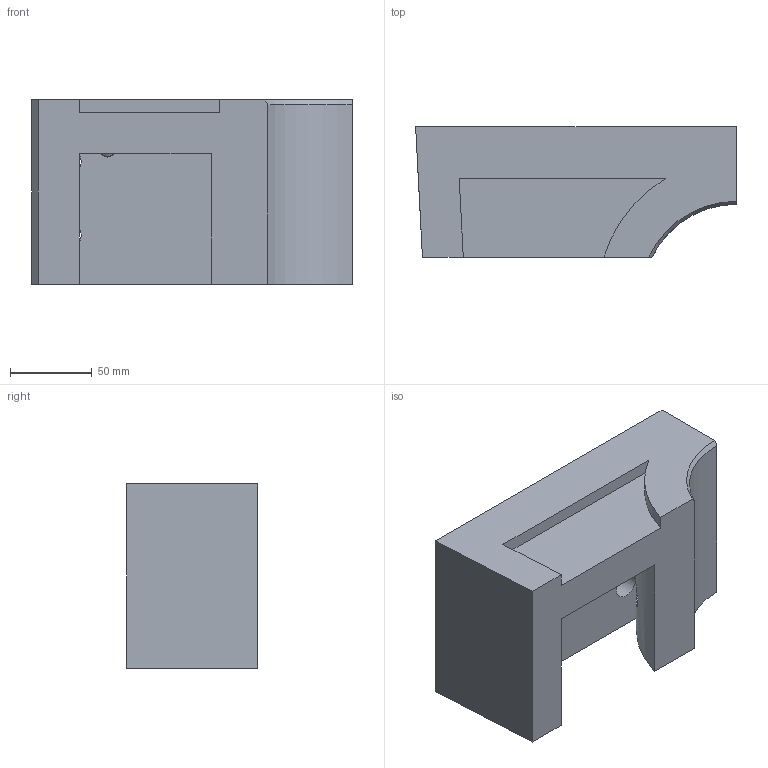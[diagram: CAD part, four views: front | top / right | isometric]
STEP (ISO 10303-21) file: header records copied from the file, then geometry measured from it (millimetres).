
FILE_DESCRIPTION (( 'STEP AP214' ), '1' );
FILE_NAME ('example_nosplit-periodical-surfaces.STEP', '2023-01-29T10:45:38', ( '' ), ( '' ), 'SwSTEP 2.0', 'SolidWorks 2021', '' );
FILE_SCHEMA (( 'AUTOMOTIVE_DESIGN' ));
Length unit declared in the file: millimetre
Products named in the file (1): example_nosplit-periodical-surfaces
Bounding box: 196.58 x 80 x 113 mm (x, y, z)
Volume: 1169930.8 mm3; surface area: 110072.7 mm2
Topology: 1 solids, 1 shells, 29 faces, 88 edges, 58 vertices
Faces by surface type: plane 13, cylinder 9, cone 7
Full cylindrical faces by diameter (mm): 10.2 x1, 17.5 x5
Entity records: 1124 total; most frequent: CARTESIAN_POINT 367, ORIENTED_EDGE 146, DIRECTION 144, EDGE_CURVE 73, VERTEX_POINT 52, AXIS2_PLACEMENT_3D 52, EDGE_LOOP 43, LINE 40
